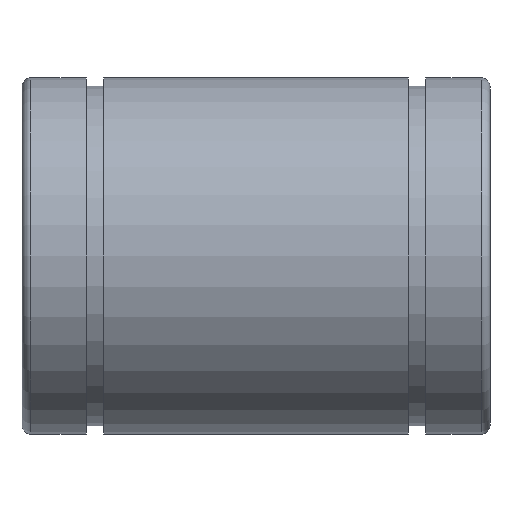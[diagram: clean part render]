
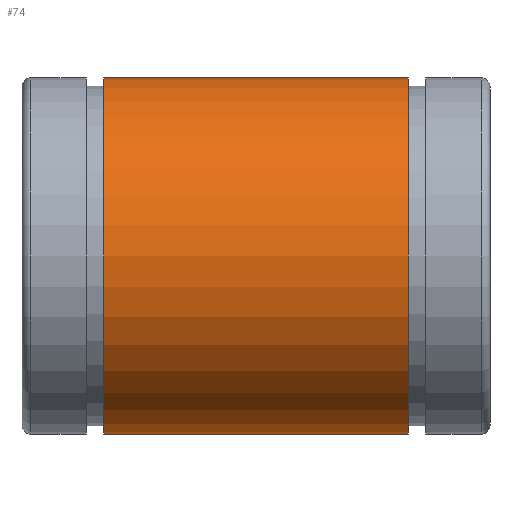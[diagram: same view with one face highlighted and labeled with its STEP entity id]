
A CAD part, front view. The second image highlights one B-rep face of the part: STEP entity #74.
In plain terms, the highlighted cylindrical face has radius 16 mm (diameter 32 mm), a full revolution.
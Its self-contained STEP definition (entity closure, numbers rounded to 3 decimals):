
#74 = ADVANCED_FACE( '', ( #159, #160 ), #161, .T. );
#159 = FACE_OUTER_BOUND( '', #238, .T. );
#160 = FACE_OUTER_BOUND( '', #239, .T. );
#161 = CYLINDRICAL_SURFACE( '', #240, 16. );
#238 = EDGE_LOOP( '', ( #343 ) );
#239 = EDGE_LOOP( '', ( #344 ) );
#240 = AXIS2_PLACEMENT_3D( '', #345, #346, #347 );
#343 = ORIENTED_EDGE( '', *, *, #372, .F. );
#344 = ORIENTED_EDGE( '', *, *, #376, .T. );
#345 = CARTESIAN_POINT( '', ( 21., 0., 0. ) );
#346 = DIRECTION( '', ( -1., 0., 0. ) );
#347 = DIRECTION( '', ( 0., 1., 0. ) );
#372 = EDGE_CURVE( '', #419, #419, #420, .T. );
#376 = EDGE_CURVE( '', #425, #425, #426, .T. );
#419 = VERTEX_POINT( '', #473 );
#420 = CIRCLE( '', #474, 16. );
#425 = VERTEX_POINT( '', #479 );
#426 = CIRCLE( '', #480, 16. );
#473 = CARTESIAN_POINT( '', ( 7.35, 16., 0. ) );
#474 = AXIS2_PLACEMENT_3D( '', #531, #532, #533 );
#479 = CARTESIAN_POINT( '', ( 34.65, 16., 0. ) );
#480 = AXIS2_PLACEMENT_3D( '', #537, #538, #539 );
#531 = CARTESIAN_POINT( '', ( 7.35, 0., 0. ) );
#532 = DIRECTION( '', ( -1., 0., 0. ) );
#533 = DIRECTION( '', ( 0., 1., 0. ) );
#537 = CARTESIAN_POINT( '', ( 34.65, 0., 0. ) );
#538 = DIRECTION( '', ( -1., 0., 0. ) );
#539 = DIRECTION( '', ( 0., 1., 0. ) );
